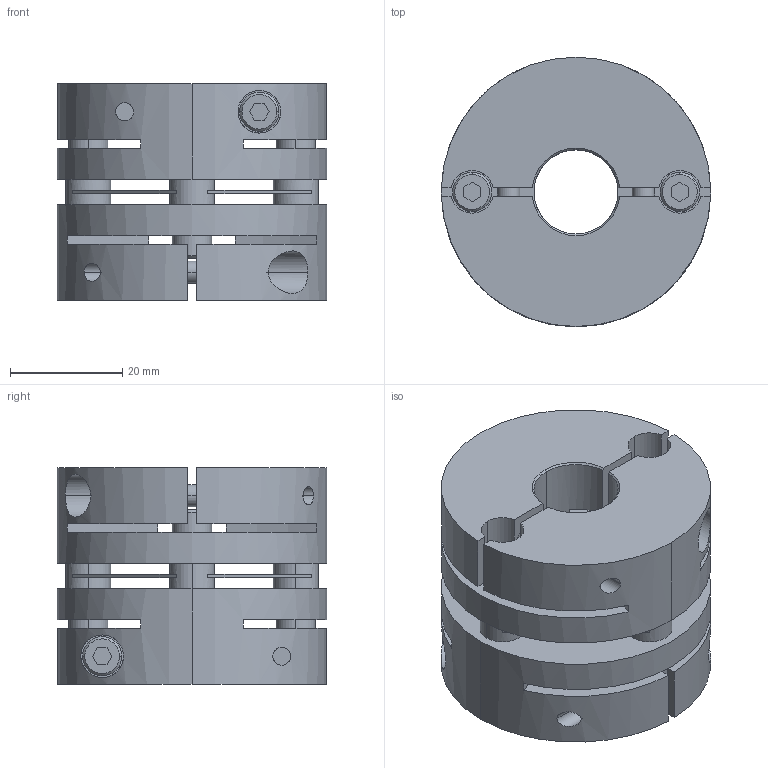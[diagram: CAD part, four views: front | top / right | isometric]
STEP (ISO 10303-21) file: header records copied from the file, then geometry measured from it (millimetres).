
FILE_DESCRIPTION((''),'2;1');
FILE_NAME('LAS-48C-15×18.stp','2013-06-12T09:40:45',(''),(''),'AutoCAD STEP 2000i','AutoCAD 2000i',', , ');
FILE_SCHEMA(('CONFIG_CONTROL_DESIGN'));
Length unit declared in the file: millimetre
Products named in the file (6): LAS-48C-12×19; 忣兜1; LA-4802-D19; LA-4802-D12-1; LA-4802-D12; LAS48-ITA
Assembly tree (5 placements, depth 2):
  LAS-48C-12×19
    忣兜1
    LA-4802-D19
    LA-4802-D12-1
    LA-4802-D12
    LAS48-ITA
Bounding box: 48 x 48 x 38.6 mm (x, y, z)
Volume: 48830.4 mm3; surface area: 22222.6 mm2
Topology: 1 solids, 1 shells, 224 faces, 600 edges, 392 vertices
Faces by surface type: plane 112, cylinder 84, cone 28
Entity records: 7841 total; most frequent: CARTESIAN_POINT 1878, DIRECTION 1256, ORIENTED_EDGE 1200, EDGE_CURVE 600, AXIS2_PLACEMENT_3D 458, VERTEX_POINT 392, VECTOR 340, LINE 340
